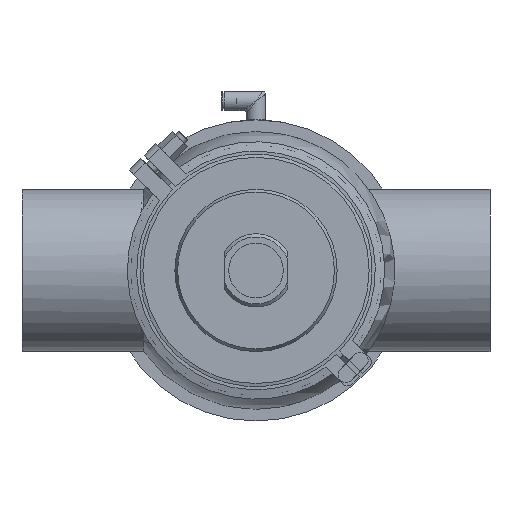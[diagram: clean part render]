
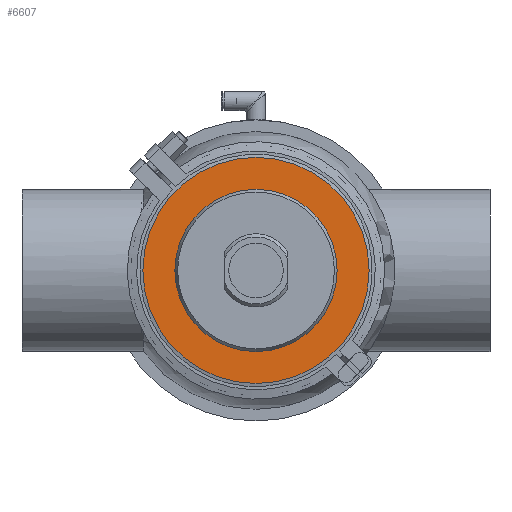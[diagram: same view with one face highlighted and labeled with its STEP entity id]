
A CAD part, front view. The second image highlights one B-rep face of the part: STEP entity #6607.
In plain terms, the highlighted planar face has unit normal (0, -1, 0).
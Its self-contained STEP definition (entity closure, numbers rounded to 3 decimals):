
#350 = VERTEX_POINT ( 'NONE', #20156 ) ;
#528 = DIRECTION ( 'NONE',  ( 0., 1., 0. ) ) ;
#799 = FACE_OUTER_BOUND ( 'NONE', #5112, .T. ) ;
#1527 = ORIENTED_EDGE ( 'NONE', *, *, #7089, .F. ) ;
#2337 = FACE_BOUND ( 'NONE', #11789, .T. ) ;
#2343 = CARTESIAN_POINT ( 'NONE',  ( 0., -13., 72.5 ) ) ;
#2392 = CARTESIAN_POINT ( 'NONE',  ( 0., -13., 0. ) ) ;
#3147 = DIRECTION ( 'NONE',  ( 0., 0., 1. ) ) ;
#5112 = EDGE_LOOP ( 'NONE', ( #1527 ) ) ;
#5163 = AXIS2_PLACEMENT_3D ( 'NONE', #13660, #15535, #3147 ) ;
#5560 = EDGE_CURVE ( 'NONE', #350, #350, #9235, .T. ) ;
#6567 = PLANE ( 'NONE',  #11179 ) ;
#6607 = ADVANCED_FACE ( 'NONE', ( #2337, #799 ), #6567, .T. ) ;
#7089 = EDGE_CURVE ( 'NONE', #11380, #11380, #19514, .T. ) ;
#7587 = DIRECTION ( 'NONE',  ( 0., 0., 1. ) ) ;
#9235 = CIRCLE ( 'NONE', #5163, 52. ) ;
#9542 = AXIS2_PLACEMENT_3D ( 'NONE', #2392, #528, #7587 ) ;
#9965 = CARTESIAN_POINT ( 'NONE',  ( -72.5, -13., 0. ) ) ;
#11179 = AXIS2_PLACEMENT_3D ( 'NONE', #9965, #11600, #13431 ) ;
#11380 = VERTEX_POINT ( 'NONE', #2343 ) ;
#11576 = ORIENTED_EDGE ( 'NONE', *, *, #5560, .T. ) ;
#11600 = DIRECTION ( 'NONE',  ( 0., -1., 0. ) ) ;
#11789 = EDGE_LOOP ( 'NONE', ( #11576 ) ) ;
#13431 = DIRECTION ( 'NONE',  ( 0., 0., -1. ) ) ;
#13660 = CARTESIAN_POINT ( 'NONE',  ( 0., -13., 0. ) ) ;
#15535 = DIRECTION ( 'NONE',  ( 0., 1., 0. ) ) ;
#19514 = CIRCLE ( 'NONE', #9542, 72.5 ) ;
#20156 = CARTESIAN_POINT ( 'NONE',  ( 0., -13., 52. ) ) ;
